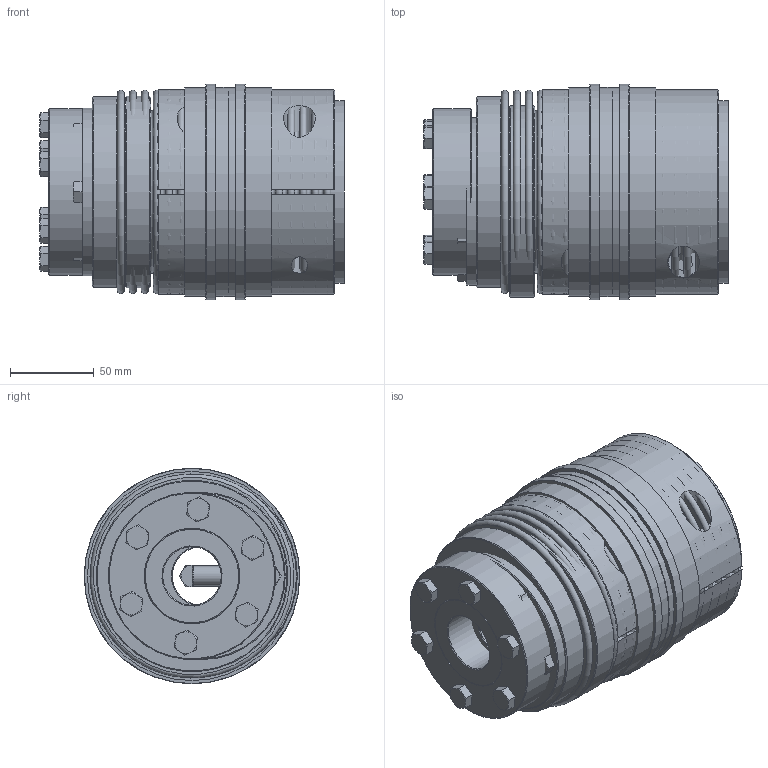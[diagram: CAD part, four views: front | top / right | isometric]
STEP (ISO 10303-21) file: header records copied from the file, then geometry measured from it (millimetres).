
FILE_DESCRIPTION( ( 'Unknown' ), '1' );
FILE_NAME( 'C:/Dokumente und Einstellungen/SKarpstein/Desktop/Korrigierte 3D Modelle/KBK-B-AK/KBK-BAK-500-175.stp', 'Unknown', ( 'Unknown' ), ( 'Unknown' ), 'XStep 1.0', 'Unknown', ' ' );
FILE_SCHEMA( ( 'automotive_design' ) );
Length unit declared in the file: millimetre
Products named in the file (13): Assem1; Assem2; Assem3; Zylinderschraube DIN 912_3_0_0; DR500_Standard_0; Hex Screw GradeC_DIN_ISO 4018 - M8 x 40-NN_0; BA500_Standard_0; Stellring 500_0; Druckring 500_0; KBK L-K-500 Grundkörper_0; Klemmnabe 500_0; Flansch BK500; BL500_Standard_2
Bounding box: 181.9 x 129 x 129 mm (x, y, z)
Volume: 2768205.6 mm3; surface area: 768953.3 mm2
Topology: 34 solids, 34 shells, 618 faces, 1275 edges, 819 vertices
Faces by surface type: plane 268, cone 165, cylinder 137, torus 48
Full cylindrical faces by diameter (mm): 3.242 x6, 5.1 x6, 5.2 x6, 6.8 x18, 8 x13, 9 x18, 10.106 x2, 12 x3, 12.5 x2, 18 x3, 19 x2, 35 x5, 62 x2, 65 x4, 65.111 x3, 70 x2, 80 x2, 86 x4, 90 x2, 100 x3, 104.5 x2, 107.7 x4, 108.9 x4, 113 x2, 114 x2, 114.5 x3, 125 x4, 129 x2
Entity records: 5384 total; most frequent: CARTESIAN_POINT 1290, DIRECTION 840, ORIENTED_EDGE 526, AXIS2_PLACEMENT_3D 397, EDGE_LOOP 384, FACE_OUTER_BOUND 268, EDGE_CURVE 263, VERTEX_POINT 231
